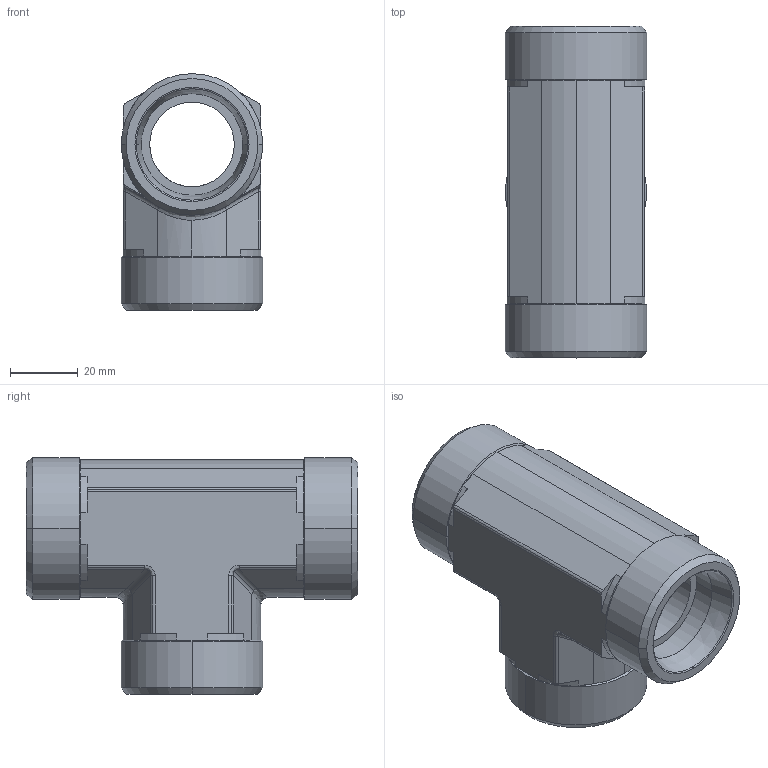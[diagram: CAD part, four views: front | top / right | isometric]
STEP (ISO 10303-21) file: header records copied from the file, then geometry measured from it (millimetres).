
FILE_DESCRIPTION((''),'2;1');
FILE_NAME('103922.stp','2007-10-31T13:07:36',(''),(''),'AutoCAD STEP 2000i','AutoCAD 2000i',', , ');
FILE_SCHEMA(('CONFIG_CONTROL_DESIGN'));
Length unit declared in the file: millimetre
Products named in the file (2): 103922.0; 3091#0
Assembly tree (1 placements, depth 2):
  103922.0
    3091#0
Bounding box: 41.82 x 98 x 69.91 mm (x, y, z)
Volume: 101156.1 mm3; surface area: 29353.5 mm2
Topology: 1 solids, 1 shells, 139 faces, 346 edges, 211 vertices
Faces by surface type: cylinder 67, plane 42, cone 18, bspline 12
Entity records: 5074 total; most frequent: CARTESIAN_POINT 1548, DIRECTION 785, ORIENTED_EDGE 692, EDGE_CURVE 346, AXIS2_PLACEMENT_3D 310, VERTEX_POINT 211, VECTOR 165, LINE 165
